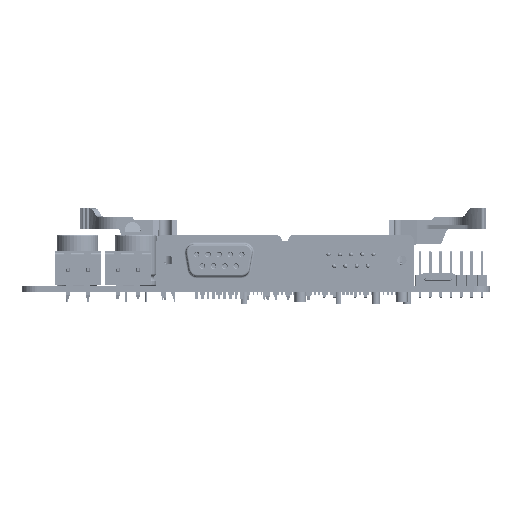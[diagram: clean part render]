
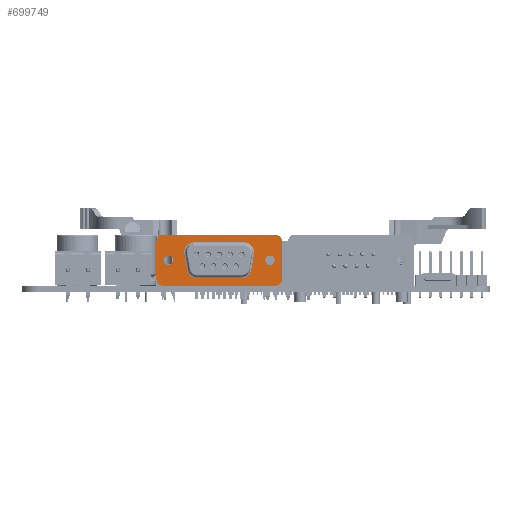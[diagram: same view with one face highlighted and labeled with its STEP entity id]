
A CAD part, left-side view. The second image highlights one B-rep face of the part: STEP entity #699749.
In plain terms, the highlighted planar face has unit normal (-1, 0, 0) as drawn and (0, 0, 1) by its records, which use the part's own axes.
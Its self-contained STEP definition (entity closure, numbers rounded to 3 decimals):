
#1131=FACE_BOUND('',#70678,.T.);
#1132=FACE_BOUND('',#70679,.T.);
#1133=FACE_BOUND('',#70680,.T.);
#11079=CIRCLE('',#745228,1.135);
#11081=CIRCLE('',#745231,1.135);
#11084=CIRCLE('',#745235,1.5);
#11085=CIRCLE('',#745238,1.5);
#11108=CIRCLE('',#745278,2.45);
#11112=CIRCLE('',#745284,2.45);
#11116=CIRCLE('',#745290,2.45);
#11118=CIRCLE('',#745294,2.45);
#11119=CIRCLE('',#745299,1.5);
#11120=CIRCLE('',#745300,1.5);
#31709=FACE_OUTER_BOUND('',#70677,.T.);
#70677=EDGE_LOOP('',(#498396,#498397,#498398,#498399,#498400,#498401,#498402,
#498403));
#70678=EDGE_LOOP('',(#498404));
#70679=EDGE_LOOP('',(#498405));
#70680=EDGE_LOOP('',(#498406,#498407,#498408,#498409,#498410,#498411,#498412,
#498413));
#122719=LINE('',#1021006,#211880);
#122723=LINE('',#1021018,#211884);
#122724=LINE('',#1021021,#211885);
#122729=LINE('',#1021032,#211890);
#122746=LINE('',#1021105,#211907);
#122747=LINE('',#1021116,#211908);
#122749=LINE('',#1021127,#211910);
#122751=LINE('',#1021136,#211912);
#211880=VECTOR('',#828248,27.8);
#211884=VECTOR('',#828260,9.5);
#211885=VECTOR('',#828263,9.5);
#211890=VECTOR('',#828270,27.8);
#211907=VECTOR('',#828353,3.96);
#211908=VECTOR('',#828366,12.3);
#211910=VECTOR('',#828380,3.96);
#211912=VECTOR('',#828392,10.925);
#297468=VERTEX_POINT('',#1020981);
#297470=VERTEX_POINT('',#1020987);
#297474=VERTEX_POINT('',#1020996);
#297475=VERTEX_POINT('',#1020998);
#297477=VERTEX_POINT('',#1021004);
#297478=VERTEX_POINT('',#1021008);
#297481=VERTEX_POINT('',#1021016);
#297482=VERTEX_POINT('',#1021020);
#297486=VERTEX_POINT('',#1021029);
#297487=VERTEX_POINT('',#1021031);
#297509=VERTEX_POINT('',#1021101);
#297510=VERTEX_POINT('',#1021103);
#297512=VERTEX_POINT('',#1021108);
#297514=VERTEX_POINT('',#1021114);
#297516=VERTEX_POINT('',#1021120);
#297517=VERTEX_POINT('',#1021125);
#297518=VERTEX_POINT('',#1021130);
#297519=VERTEX_POINT('',#1021134);
#372796=EDGE_CURVE('',#297468,#297468,#11079,.T.);
#372799=EDGE_CURVE('',#297470,#297470,#11081,.T.);
#372804=EDGE_CURVE('',#297474,#297475,#11084,.T.);
#372808=EDGE_CURVE('',#297477,#297474,#122719,.T.);
#372809=EDGE_CURVE('',#297478,#297477,#11085,.T.);
#372814=EDGE_CURVE('',#297481,#297478,#122723,.T.);
#372815=EDGE_CURVE('',#297475,#297482,#122724,.T.);
#372820=EDGE_CURVE('',#297486,#297487,#122729,.T.);
#372857=EDGE_CURVE('',#297510,#297509,#122746,.T.);
#372859=EDGE_CURVE('',#297512,#297510,#11108,.T.);
#372862=EDGE_CURVE('',#297514,#297512,#122747,.T.);
#372865=EDGE_CURVE('',#297516,#297514,#11112,.T.);
#372868=EDGE_CURVE('',#297517,#297516,#122749,.T.);
#372871=EDGE_CURVE('',#297518,#297517,#11116,.T.);
#372873=EDGE_CURVE('',#297519,#297518,#122751,.T.);
#372874=EDGE_CURVE('',#297509,#297519,#11118,.T.);
#372878=EDGE_CURVE('',#297487,#297481,#11119,.T.);
#372879=EDGE_CURVE('',#297482,#297486,#11120,.T.);
#498396=ORIENTED_EDGE('',*,*,#372804,.F.);
#498397=ORIENTED_EDGE('',*,*,#372808,.F.);
#498398=ORIENTED_EDGE('',*,*,#372809,.F.);
#498399=ORIENTED_EDGE('',*,*,#372814,.F.);
#498400=ORIENTED_EDGE('',*,*,#372878,.F.);
#498401=ORIENTED_EDGE('',*,*,#372820,.F.);
#498402=ORIENTED_EDGE('',*,*,#372879,.F.);
#498403=ORIENTED_EDGE('',*,*,#372815,.F.);
#498404=ORIENTED_EDGE('',*,*,#372796,.T.);
#498405=ORIENTED_EDGE('',*,*,#372799,.T.);
#498406=ORIENTED_EDGE('',*,*,#372857,.F.);
#498407=ORIENTED_EDGE('',*,*,#372859,.F.);
#498408=ORIENTED_EDGE('',*,*,#372862,.F.);
#498409=ORIENTED_EDGE('',*,*,#372865,.F.);
#498410=ORIENTED_EDGE('',*,*,#372868,.F.);
#498411=ORIENTED_EDGE('',*,*,#372871,.F.);
#498412=ORIENTED_EDGE('',*,*,#372873,.F.);
#498413=ORIENTED_EDGE('',*,*,#372874,.F.);
#655575=PLANE('',#745298);
#699749=ADVANCED_FACE('',(#31709,#1131,#1132,#1133),#655575,.T.);
#745228=AXIS2_PLACEMENT_3D('',#1020982,#828224,#828225);
#745231=AXIS2_PLACEMENT_3D('',#1020988,#828231,#828232);
#745235=AXIS2_PLACEMENT_3D('',#1020999,#828241,#828242);
#745238=AXIS2_PLACEMENT_3D('',#1021009,#828251,#828252);
#745278=AXIS2_PLACEMENT_3D('',#1021110,#828358,#828359);
#745284=AXIS2_PLACEMENT_3D('',#1021122,#828372,#828373);
#745290=AXIS2_PLACEMENT_3D('',#1021132,#828386,#828387);
#745294=AXIS2_PLACEMENT_3D('',#1021138,#828395,#828396);
#745298=AXIS2_PLACEMENT_3D('',#1021145,#828406,#828407);
#745299=AXIS2_PLACEMENT_3D('',#1021146,#828408,#828409);
#745300=AXIS2_PLACEMENT_3D('',#1021147,#828410,#828411);
#828224=DIRECTION('center_axis',(0.,0.,-1.));
#828225=DIRECTION('ref_axis',(-1.,0.,0.));
#828231=DIRECTION('center_axis',(0.,0.,-1.));
#828232=DIRECTION('ref_axis',(-1.,0.,0.));
#828241=DIRECTION('center_axis',(0.,0.,-1.));
#828242=DIRECTION('ref_axis',(0.707,0.707,0.));
#828248=DIRECTION('',(1.,0.,0.));
#828251=DIRECTION('center_axis',(0.,0.,-1.));
#828252=DIRECTION('ref_axis',(-0.707,0.707,0.));
#828260=DIRECTION('',(0.,1.,0.));
#828263=DIRECTION('',(0.,-1.,0.));
#828270=DIRECTION('',(-1.,0.,0.));
#828353=DIRECTION('',(0.174,-0.985,0.));
#828358=DIRECTION('center_axis',(0.,0.,1.));
#828359=DIRECTION('ref_axis',(-0.766,0.643,0.));
#828366=DIRECTION('',(-1.,0.,0.));
#828372=DIRECTION('center_axis',(0.,0.,1.));
#828373=DIRECTION('ref_axis',(0.766,0.643,0.));
#828380=DIRECTION('',(0.174,0.985,0.));
#828386=DIRECTION('center_axis',(0.,0.,1.));
#828387=DIRECTION('ref_axis',(0.643,-0.766,0.));
#828392=DIRECTION('',(1.,0.,0.));
#828395=DIRECTION('center_axis',(0.,0.,1.));
#828396=DIRECTION('ref_axis',(-0.643,-0.766,0.));
#828406=DIRECTION('center_axis',(0.,0.,1.));
#828407=DIRECTION('ref_axis',(1.,0.,0.));
#828408=DIRECTION('center_axis',(0.,0.,-1.));
#828409=DIRECTION('ref_axis',(-1.,0.,0.));
#828410=DIRECTION('center_axis',(0.,0.,-1.));
#828411=DIRECTION('ref_axis',(0.,-1.,0.));
#1020981=CARTESIAN_POINT('',(-11.365,6.25,0.45));
#1020982=CARTESIAN_POINT('Origin',(-12.5,6.25,0.45));
#1020987=CARTESIAN_POINT('',(13.635,6.25,0.45));
#1020988=CARTESIAN_POINT('Origin',(12.5,6.25,0.45));
#1020996=CARTESIAN_POINT('',(13.9,12.5,0.45));
#1020998=CARTESIAN_POINT('',(15.4,11.,0.45));
#1020999=CARTESIAN_POINT('Origin',(13.9,11.,0.45));
#1021004=CARTESIAN_POINT('',(-13.9,12.5,0.45));
#1021006=CARTESIAN_POINT('',(-13.9,12.5,0.45));
#1021008=CARTESIAN_POINT('',(-15.4,11.,0.45));
#1021009=CARTESIAN_POINT('Origin',(-13.9,11.,0.45));
#1021016=CARTESIAN_POINT('',(-15.4,1.5,0.45));
#1021018=CARTESIAN_POINT('',(-15.4,1.5,0.45));
#1021020=CARTESIAN_POINT('',(15.4,1.5,0.45));
#1021021=CARTESIAN_POINT('',(15.4,11.,0.45));
#1021029=CARTESIAN_POINT('',(13.9,0.,0.45));
#1021031=CARTESIAN_POINT('',(-13.9,0.,0.45));
#1021032=CARTESIAN_POINT('',(13.9,0.,0.45));
#1021101=CARTESIAN_POINT('',(-7.875,3.875,0.45));
#1021103=CARTESIAN_POINT('',(-8.563,7.775,0.45));
#1021105=CARTESIAN_POINT('',(-8.563,7.775,0.45));
#1021108=CARTESIAN_POINT('',(-6.15,10.65,0.45));
#1021110=CARTESIAN_POINT('Origin',(-6.15,8.2,0.45));
#1021114=CARTESIAN_POINT('',(6.15,10.65,0.45));
#1021116=CARTESIAN_POINT('',(6.15,10.65,0.45));
#1021120=CARTESIAN_POINT('',(8.563,7.775,0.45));
#1021122=CARTESIAN_POINT('Origin',(6.15,8.2,0.45));
#1021125=CARTESIAN_POINT('',(7.875,3.875,0.45));
#1021127=CARTESIAN_POINT('',(7.875,3.875,0.45));
#1021130=CARTESIAN_POINT('',(5.462,1.85,0.45));
#1021132=CARTESIAN_POINT('Origin',(5.462,4.3,0.45));
#1021134=CARTESIAN_POINT('',(-5.462,1.85,0.45));
#1021136=CARTESIAN_POINT('',(-5.462,1.85,0.45));
#1021138=CARTESIAN_POINT('Origin',(-5.462,4.3,0.45));
#1021145=CARTESIAN_POINT('Origin',(0.,6.349,0.45));
#1021146=CARTESIAN_POINT('Origin',(-13.9,1.5,0.45));
#1021147=CARTESIAN_POINT('Origin',(13.9,1.5,0.45));
